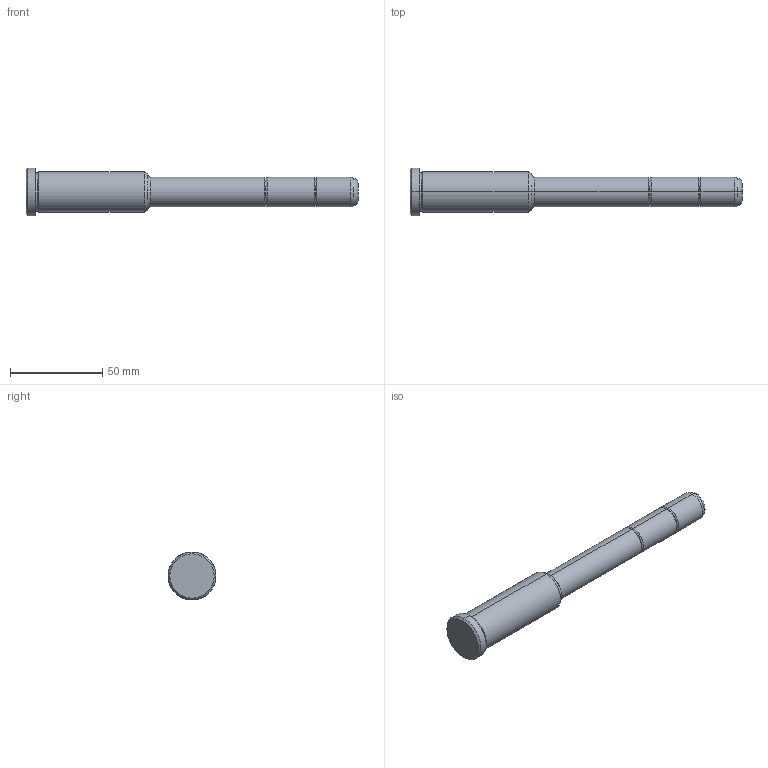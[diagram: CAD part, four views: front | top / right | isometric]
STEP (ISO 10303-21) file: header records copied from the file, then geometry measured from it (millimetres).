
FILE_DESCRIPTION(('CATIA V5 STEP Exchange'),'2;1');
FILE_NAME('C:\Users\Utente\Desktop\IO LAVORO\3D X SITO CF\X SITO\PLASTICA\351\351-16X66X180.stp','2021-08-18T11:43:29+00:00',('none'),('none'),'CATIA Version 5 Release 20 GA (IN-10)','CATIA V5 STEP AP203','none');
FILE_SCHEMA(('CONFIG_CONTROL_DESIGN'));
Length unit declared in the file: millimetre
Products named in the file (1): 351-16X66X180
Bounding box: 180 x 26 x 26 mm (x, y, z)
Volume: 48424.4 mm3; surface area: 11237.9 mm2
Topology: 1 solids, 1 shells, 36 faces, 102 edges, 70 vertices
Faces by surface type: torus 16, cylinder 10, cone 6, plane 4
Entity records: 1292 total; most frequent: CARTESIAN_POINT 321, ORIENTED_EDGE 204, DIRECTION 166, AXIS2_PLACEMENT_3D 115, EDGE_CURVE 102, CIRCLE 78, VERTEX_POINT 70, EDGE_LOOP 38
